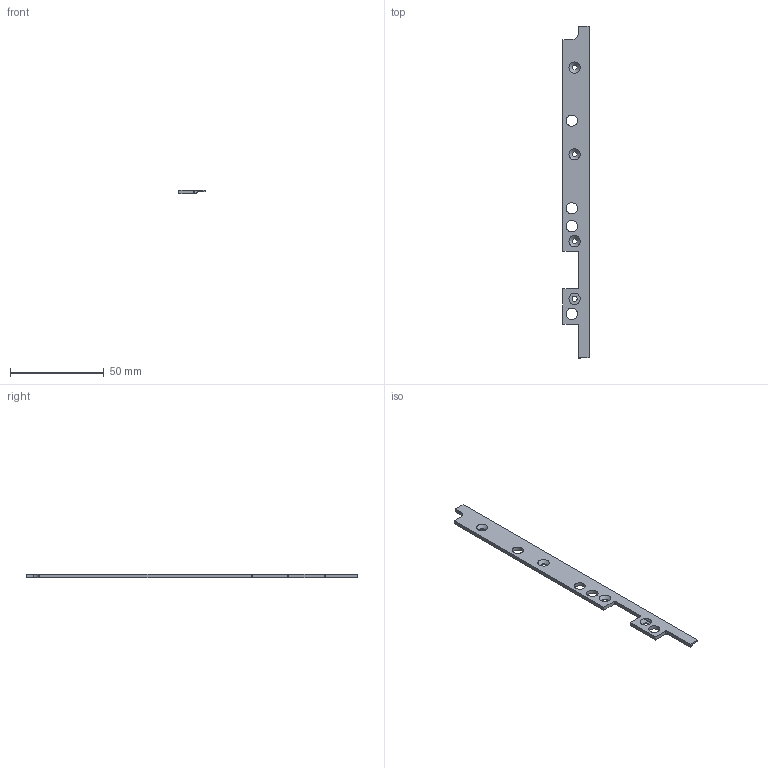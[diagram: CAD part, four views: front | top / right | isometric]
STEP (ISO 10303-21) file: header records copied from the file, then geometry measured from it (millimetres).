
FILE_DESCRIPTION(/* description */ (''),/* implementation_level */ '2;1');
FILE_NAME(/* name */ 'LAMINA#1.stp',/* time_stamp */ '2023-05-18T12:46:38+02:00',/* author */ (''),/* organization */ (''),/* preprocessor_version */ 'ST-DEVELOPER v18.102',/* originating_system */ 'SIEMENS PLM Software NX 2000',/* authorisation */ '');
FILE_SCHEMA (('AP203_CONFIGURATION_CONTROLLED_3D_DESIGN_OF_MECHANICAL_PARTS_AND_ASSEMBLIES_MIM_LF { 1 0 10303 403 2 1 2}'));
Length unit declared in the file: millimetre
Products named in the file (1): turc23EC399Buded
Bounding box: 14 x 177.4 x 2 mm (x, y, z)
Volume: 2917.4 mm3; surface area: 4860.6 mm2
Topology: 1 solids, 1 shells, 33 faces, 101 edges, 70 vertices
Faces by surface type: plane 16, cylinder 13, cone 4
Full cylindrical faces by diameter (mm): 2.7 x4, 6 x4
Entity records: 1279 total; most frequent: DIRECTION 211, CARTESIAN_POINT 205, ORIENTED_EDGE 202, EDGE_CURVE 101, AXIS2_PLACEMENT_3D 76, VERTEX_POINT 70, LINE 59, VECTOR 59
